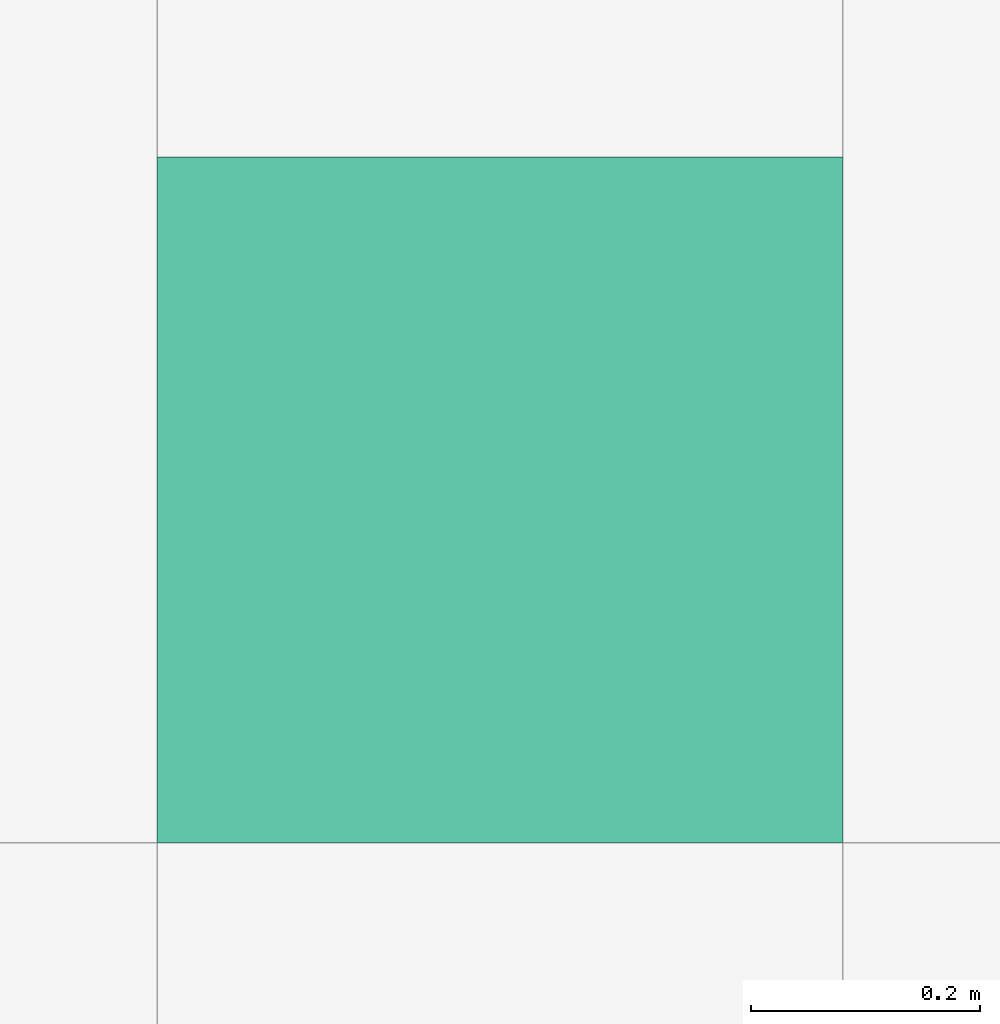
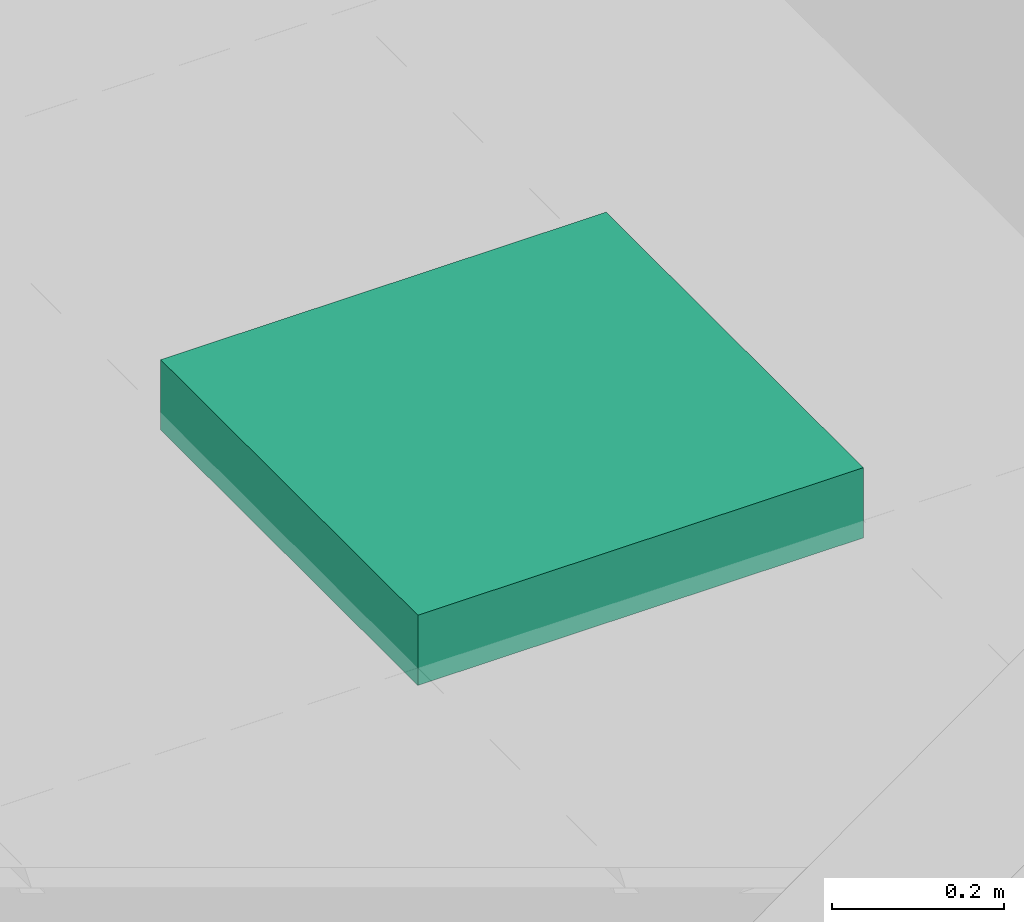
# One storey, part 290 of 347: 1 flow terminal.
"""IFC2X3 building model written with IfcOpenShell, lengths in millimetres."""

from ifc_helpers import new_model, entity, si_unit, converted_unit, derived_unit, money_unit, direction, frame, origin_with_axes, place, context, subcontext, project, spatial, open_shell, faceted_brep, surface_model, source, transform, mapped, type_object, type_shapes, element, save


model = new_model("IFC2X3")

# Units and contexts
model_context = context("Model", 3, precision=0.01, world=origin_with_axes(), true_north=direction((0.0, 1.0)))
plan_context = context("Plan", 3, precision=0.01, world=origin_with_axes(), true_north=direction((0.0, 1.0)))
body_context = subcontext(model_context, "Body", "Model", "MODEL_VIEW")
ifc_project = project(units=[si_unit("LENGTHUNIT", "METRE", prefix="MILLI"), si_unit("AREAUNIT", "SQUARE_METRE"), si_unit("VOLUMEUNIT", "CUBIC_METRE"), converted_unit("PLANEANGLEUNIT", "DEGREE", entity("IfcPlaneAngleMeasure", 0.0174532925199), si_unit("PLANEANGLEUNIT", "RADIAN"), dimensions=[0, 0, 0, 0, 0, 0, 0]), money_unit("EUR"), converted_unit("TIMEUNIT", "Year", entity("IfcTimeMeasure", 31556926.0), si_unit("TIMEUNIT", "SECOND"), dimensions=[0, 0, 1, 0, 0, 0, 0]), si_unit("MASSUNIT", "GRAM", prefix="KILO"), si_unit("THERMODYNAMICTEMPERATUREUNIT", "DEGREE_CELSIUS"), si_unit("LUMINOUSINTENSITYUNIT", "LUMEN"), si_unit("ENERGYUNIT", "JOULE", prefix="MEGA"), derived_unit("THERMALCONDUCTANCEUNIT", [(si_unit("POWERUNIT", "WATT"), 1), (si_unit("LENGTHUNIT", "METRE"), -1), (si_unit("THERMODYNAMICTEMPERATUREUNIT", "KELVIN"), -1)]), derived_unit("SPECIFICHEATCAPACITYUNIT", [(si_unit("ENERGYUNIT", "JOULE"), 1), (si_unit("MASSUNIT", "GRAM", prefix="KILO"), -1), (si_unit("THERMODYNAMICTEMPERATUREUNIT", "KELVIN"), -1)]), derived_unit("MASSDENSITYUNIT", [(si_unit("MASSUNIT", "GRAM", prefix="KILO"), 1), (si_unit("VOLUMEUNIT", "CUBIC_METRE"), -1)])], contexts=[model_context, plan_context])

# Site, building, storey
site_placement = place(None, origin_with_axes())
site = spatial("IfcSite", under=ifc_project, at=site_placement, Name="Site", CompositionType="ELEMENT")
building_placement = place(site_placement, origin_with_axes())
building = spatial("IfcBuilding", under=site, at=building_placement, Name="Naam gebouw", CompositionType="ELEMENT")
storey_placement = place(building_placement, origin_with_axes())
storey = spatial("IfcBuildingStorey", under=building, at=storey_placement, Name="begane grond", CompositionType="ELEMENT", Elevation=0.0)

# Flow terminal
lamp_type = type_object("IfcLampType", Name="TL plafond 25", PredefinedType="NOTDEFINED")
shared_shape = source(origin_with_axes(), body_context, "Body", "SurfaceModel", [
    faceted_brep([(0.0, 0.0, -100.0), (0.0, 0.0, 0.0), (-600.0, 0.0, 0.0), (-600.0, 0.0, -100.0), (0.0, 600.0, -100.0), (0.0, 600.0, 0.0), (-600.0, 600.0, 0.0), (-40.0, 40.0, 0.0), (-560.0, 40.0, 0.0), (-560.0, 560.0, 0.0), (-40.0, 560.0, 0.0), (-600.0, 600.0, -100.0), (-40.0, 40.0, -100.0), (-40.0, 560.0, -100.0), (-560.0, 560.0, -100.0), (-560.0, 40.0, -100.0)], [[[0, 1, 2, 3]], [[4, 5, 1, 0]], [[1, 5, 6, 2], [7, 8, 9, 10]], [[3, 2, 6, 11]], [[0, 3, 11, 4], [12, 13, 14, 15]], [[11, 6, 5, 4]], [[15, 8, 7, 12]], [[14, 9, 8, 15]], [[13, 10, 9, 14]], [[12, 7, 10, 13]]]),
    faceted_brep([(-40.0, 40.0, -16.3333333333), (-40.0, 40.0, 0.0), (-560.0, 40.0, 0.0), (-560.0, 40.0, -16.3333333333), (-40.0, 560.0, -16.3333333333), (-40.0, 560.0, 0.0), (-560.0, 560.0, 0.0), (-560.0, 560.0, -16.3333333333)], [[[0, 1, 2, 3]], [[4, 5, 1, 0]], [[1, 5, 6, 2]], [[3, 2, 6, 7]], [[0, 3, 7, 4]], [[7, 6, 5, 4]]]),
    surface_model("IfcShellBasedSurfaceModel", [(-559.0, 41.0, -100.0), (-559.0, 559.0, -100.0), (-40.0, 559.0, -100.0), (-40.0, 41.0, -100.0)], [open_shell([[[0, 1, 2, 3]]])]),
    faceted_brep([(-40.0, 40.0, -100.0), (-40.0, 40.0, -60.0), (-560.0, 40.0, -60.0), (-560.0, 40.0, -100.0), (-40.0, 560.0, -100.0), (-40.0, 560.0, -60.0), (-560.0, 560.0, -60.0), (-41.0, 41.0, -60.0), (-559.0, 41.0, -60.0), (-559.0, 559.0, -60.0), (-41.0, 559.0, -60.0), (-560.0, 560.0, -100.0), (-41.0, 41.0, -100.0), (-41.0, 559.0, -100.0), (-559.0, 559.0, -100.0), (-559.0, 41.0, -100.0)], [[[0, 1, 2, 3]], [[4, 5, 1, 0]], [[1, 5, 6, 2], [7, 8, 9, 10]], [[3, 2, 6, 11]], [[0, 3, 11, 4], [12, 13, 14, 15]], [[11, 6, 5, 4]], [[15, 8, 7, 12]], [[14, 9, 8, 15]], [[13, 10, 9, 14]], [[12, 7, 10, 13]]]),
    faceted_brep([(-40.0, 144.0, -48.3333333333), (-560.0, 144.0, -48.3333333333), (-560.0, 149.740251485, -47.191526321), (-40.0, 149.740251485, -47.191526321), (-40.0, 138.259748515, -47.191526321), (-560.0, 138.259748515, -47.191526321), (-560.0, 133.393398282, -43.9399350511), (-560.0, 130.141807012, -39.0735848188), (-560.0, 129.0, -33.3333333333), (-560.0, 130.141807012, -27.5930818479), (-560.0, 133.393398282, -22.7267316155), (-560.0, 138.259748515, -19.4751403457), (-560.0, 144.0, -18.3333333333), (-560.0, 149.740251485, -19.4751403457), (-560.0, 154.606601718, -22.7267316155), (-560.0, 157.858192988, -27.5930818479), (-560.0, 159.0, -33.3333333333), (-560.0, 157.858192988, -39.0735848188), (-560.0, 154.606601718, -43.9399350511), (-560.0, 144.0, -46.3333333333), (-560.0, 148.974884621, -45.343767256), (-560.0, 153.192388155, -42.5257214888), (-560.0, 156.010433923, -38.3082179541), (-560.0, 157.0, -33.3333333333), (-560.0, 156.010433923, -28.3584487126), (-560.0, 153.192388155, -24.1409451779), (-560.0, 148.974884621, -21.3228994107), (-560.0, 144.0, -20.3333333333), (-560.0, 139.025115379, -21.3228994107), (-560.0, 134.807611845, -24.1409451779), (-560.0, 131.989566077, -28.3584487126), (-560.0, 131.0, -33.3333333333), (-560.0, 131.989566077, -38.3082179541), (-560.0, 134.807611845, -42.5257214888), (-560.0, 139.025115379, -45.343767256), (-40.0, 154.606601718, -43.9399350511), (-40.0, 157.858192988, -39.0735848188), (-40.0, 159.0, -33.3333333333), (-40.0, 157.858192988, -27.5930818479), (-40.0, 154.606601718, -22.7267316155), (-40.0, 149.740251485, -19.4751403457), (-40.0, 144.0, -18.3333333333), (-40.0, 138.259748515, -19.4751403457), (-40.0, 133.393398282, -22.7267316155), (-40.0, 130.141807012, -27.5930818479), (-40.0, 129.0, -33.3333333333), (-40.0, 130.141807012, -39.0735848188), (-40.0, 133.393398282, -43.9399350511), (-40.0, 144.0, -46.3333333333), (-40.0, 139.025115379, -45.343767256), (-40.0, 134.807611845, -42.5257214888), (-40.0, 131.989566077, -38.3082179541), (-40.0, 131.0, -33.3333333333), (-40.0, 131.989566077, -28.3584487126), (-40.0, 134.807611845, -24.1409451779), (-40.0, 139.025115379, -21.3228994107), (-40.0, 144.0, -20.3333333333), (-40.0, 148.974884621, -21.3228994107), (-40.0, 153.192388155, -24.1409451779), (-40.0, 156.010433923, -28.3584487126), (-40.0, 157.0, -33.3333333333), (-40.0, 156.010433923, -38.3082179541), (-40.0, 153.192388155, -42.5257214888), (-40.0, 148.974884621, -45.343767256)], [[[0, 1, 2, 3]], [[4, 5, 1, 0]], [[1, 5, 6, 7, 8, 9, 10, 11, 12, 13, 14, 15, 16, 17, 18, 2], [19, 20, 21, 22, 23, 24, 25, 26, 27, 28, 29, 30, 31, 32, 33, 34]], [[3, 2, 18, 35]], [[0, 3, 35, 36, 37, 38, 39, 40, 41, 42, 43, 44, 45, 46, 47, 4], [48, 49, 50, 51, 52, 53, 54, 55, 56, 57, 58, 59, 60, 61, 62, 63]], [[47, 6, 5, 4]], [[46, 7, 6, 47]], [[45, 8, 7, 46]], [[44, 9, 8, 45]], [[43, 10, 9, 44]], [[42, 11, 10, 43]], [[41, 12, 11, 42]], [[40, 13, 12, 41]], [[39, 14, 13, 40]], [[38, 15, 14, 39]], [[37, 16, 15, 38]], [[36, 17, 16, 37]], [[35, 18, 17, 36]], [[63, 20, 19, 48]], [[62, 21, 20, 63]], [[61, 22, 21, 62]], [[60, 23, 22, 61]], [[59, 24, 23, 60]], [[58, 25, 24, 59]], [[57, 26, 25, 58]], [[56, 27, 26, 57]], [[55, 28, 27, 56]], [[54, 29, 28, 55]], [[53, 30, 29, 54]], [[52, 31, 30, 53]], [[51, 32, 31, 52]], [[50, 33, 32, 51]], [[49, 34, 33, 50]], [[48, 19, 34, 49]]]),
    faceted_brep([(-40.0, 248.0, -48.3333333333), (-560.0, 248.0, -48.3333333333), (-560.0, 253.740251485, -47.191526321), (-40.0, 253.740251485, -47.191526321), (-40.0, 242.259748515, -47.191526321), (-560.0, 242.259748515, -47.191526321), (-560.0, 237.393398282, -43.9399350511), (-560.0, 234.141807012, -39.0735848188), (-560.0, 233.0, -33.3333333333), (-560.0, 234.141807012, -27.5930818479), (-560.0, 237.393398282, -22.7267316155), (-560.0, 242.259748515, -19.4751403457), (-560.0, 248.0, -18.3333333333), (-560.0, 253.740251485, -19.4751403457), (-560.0, 258.606601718, -22.7267316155), (-560.0, 261.858192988, -27.5930818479), (-560.0, 263.0, -33.3333333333), (-560.0, 261.858192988, -39.0735848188), (-560.0, 258.606601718, -43.9399350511), (-560.0, 248.0, -46.3333333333), (-560.0, 252.974884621, -45.343767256), (-560.0, 257.192388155, -42.5257214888), (-560.0, 260.010433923, -38.3082179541), (-560.0, 261.0, -33.3333333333), (-560.0, 260.010433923, -28.3584487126), (-560.0, 257.192388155, -24.1409451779), (-560.0, 252.974884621, -21.3228994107), (-560.0, 248.0, -20.3333333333), (-560.0, 243.025115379, -21.3228994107), (-560.0, 238.807611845, -24.1409451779), (-560.0, 235.989566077, -28.3584487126), (-560.0, 235.0, -33.3333333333), (-560.0, 235.989566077, -38.3082179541), (-560.0, 238.807611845, -42.5257214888), (-560.0, 243.025115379, -45.343767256), (-40.0, 258.606601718, -43.9399350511), (-40.0, 261.858192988, -39.0735848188), (-40.0, 263.0, -33.3333333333), (-40.0, 261.858192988, -27.5930818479), (-40.0, 258.606601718, -22.7267316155), (-40.0, 253.740251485, -19.4751403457), (-40.0, 248.0, -18.3333333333), (-40.0, 242.259748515, -19.4751403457), (-40.0, 237.393398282, -22.7267316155), (-40.0, 234.141807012, -27.5930818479), (-40.0, 233.0, -33.3333333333), (-40.0, 234.141807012, -39.0735848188), (-40.0, 237.393398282, -43.9399350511), (-40.0, 248.0, -46.3333333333), (-40.0, 243.025115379, -45.343767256), (-40.0, 238.807611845, -42.5257214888), (-40.0, 235.989566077, -38.3082179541), (-40.0, 235.0, -33.3333333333), (-40.0, 235.989566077, -28.3584487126), (-40.0, 238.807611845, -24.1409451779), (-40.0, 243.025115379, -21.3228994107), (-40.0, 248.0, -20.3333333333), (-40.0, 252.974884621, -21.3228994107), (-40.0, 257.192388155, -24.1409451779), (-40.0, 260.010433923, -28.3584487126), (-40.0, 261.0, -33.3333333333), (-40.0, 260.010433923, -38.3082179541), (-40.0, 257.192388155, -42.5257214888), (-40.0, 252.974884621, -45.343767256)], [[[0, 1, 2, 3]], [[4, 5, 1, 0]], [[1, 5, 6, 7, 8, 9, 10, 11, 12, 13, 14, 15, 16, 17, 18, 2], [19, 20, 21, 22, 23, 24, 25, 26, 27, 28, 29, 30, 31, 32, 33, 34]], [[3, 2, 18, 35]], [[0, 3, 35, 36, 37, 38, 39, 40, 41, 42, 43, 44, 45, 46, 47, 4], [48, 49, 50, 51, 52, 53, 54, 55, 56, 57, 58, 59, 60, 61, 62, 63]], [[47, 6, 5, 4]], [[46, 7, 6, 47]], [[45, 8, 7, 46]], [[44, 9, 8, 45]], [[43, 10, 9, 44]], [[42, 11, 10, 43]], [[41, 12, 11, 42]], [[40, 13, 12, 41]], [[39, 14, 13, 40]], [[38, 15, 14, 39]], [[37, 16, 15, 38]], [[36, 17, 16, 37]], [[35, 18, 17, 36]], [[63, 20, 19, 48]], [[62, 21, 20, 63]], [[61, 22, 21, 62]], [[60, 23, 22, 61]], [[59, 24, 23, 60]], [[58, 25, 24, 59]], [[57, 26, 25, 58]], [[56, 27, 26, 57]], [[55, 28, 27, 56]], [[54, 29, 28, 55]], [[53, 30, 29, 54]], [[52, 31, 30, 53]], [[51, 32, 31, 52]], [[50, 33, 32, 51]], [[49, 34, 33, 50]], [[48, 19, 34, 49]]]),
    faceted_brep([(-40.0, 352.0, -48.3333333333), (-560.0, 352.0, -48.3333333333), (-560.0, 357.740251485, -47.191526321), (-40.0, 357.740251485, -47.191526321), (-40.0, 346.259748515, -47.191526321), (-560.0, 346.259748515, -47.191526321), (-560.0, 341.393398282, -43.9399350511), (-560.0, 338.141807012, -39.0735848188), (-560.0, 337.0, -33.3333333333), (-560.0, 338.141807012, -27.5930818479), (-560.0, 341.393398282, -22.7267316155), (-560.0, 346.259748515, -19.4751403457), (-560.0, 352.0, -18.3333333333), (-560.0, 357.740251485, -19.4751403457), (-560.0, 362.606601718, -22.7267316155), (-560.0, 365.858192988, -27.5930818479), (-560.0, 367.0, -33.3333333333), (-560.0, 365.858192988, -39.0735848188), (-560.0, 362.606601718, -43.9399350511), (-560.0, 352.0, -46.3333333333), (-560.0, 356.974884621, -45.343767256), (-560.0, 361.192388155, -42.5257214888), (-560.0, 364.010433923, -38.3082179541), (-560.0, 365.0, -33.3333333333), (-560.0, 364.010433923, -28.3584487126), (-560.0, 361.192388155, -24.1409451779), (-560.0, 356.974884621, -21.3228994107), (-560.0, 352.0, -20.3333333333), (-560.0, 347.025115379, -21.3228994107), (-560.0, 342.807611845, -24.1409451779), (-560.0, 339.989566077, -28.3584487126), (-560.0, 339.0, -33.3333333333), (-560.0, 339.989566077, -38.3082179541), (-560.0, 342.807611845, -42.5257214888), (-560.0, 347.025115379, -45.343767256), (-40.0, 362.606601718, -43.9399350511), (-40.0, 365.858192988, -39.0735848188), (-40.0, 367.0, -33.3333333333), (-40.0, 365.858192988, -27.5930818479), (-40.0, 362.606601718, -22.7267316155), (-40.0, 357.740251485, -19.4751403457), (-40.0, 352.0, -18.3333333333), (-40.0, 346.259748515, -19.4751403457), (-40.0, 341.393398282, -22.7267316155), (-40.0, 338.141807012, -27.5930818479), (-40.0, 337.0, -33.3333333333), (-40.0, 338.141807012, -39.0735848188), (-40.0, 341.393398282, -43.9399350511), (-40.0, 352.0, -46.3333333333), (-40.0, 347.025115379, -45.343767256), (-40.0, 342.807611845, -42.5257214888), (-40.0, 339.989566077, -38.3082179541), (-40.0, 339.0, -33.3333333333), (-40.0, 339.989566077, -28.3584487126), (-40.0, 342.807611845, -24.1409451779), (-40.0, 347.025115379, -21.3228994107), (-40.0, 352.0, -20.3333333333), (-40.0, 356.974884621, -21.3228994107), (-40.0, 361.192388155, -24.1409451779), (-40.0, 364.010433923, -28.3584487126), (-40.0, 365.0, -33.3333333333), (-40.0, 364.010433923, -38.3082179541), (-40.0, 361.192388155, -42.5257214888), (-40.0, 356.974884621, -45.343767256)], [[[0, 1, 2, 3]], [[4, 5, 1, 0]], [[1, 5, 6, 7, 8, 9, 10, 11, 12, 13, 14, 15, 16, 17, 18, 2], [19, 20, 21, 22, 23, 24, 25, 26, 27, 28, 29, 30, 31, 32, 33, 34]], [[3, 2, 18, 35]], [[0, 3, 35, 36, 37, 38, 39, 40, 41, 42, 43, 44, 45, 46, 47, 4], [48, 49, 50, 51, 52, 53, 54, 55, 56, 57, 58, 59, 60, 61, 62, 63]], [[47, 6, 5, 4]], [[46, 7, 6, 47]], [[45, 8, 7, 46]], [[44, 9, 8, 45]], [[43, 10, 9, 44]], [[42, 11, 10, 43]], [[41, 12, 11, 42]], [[40, 13, 12, 41]], [[39, 14, 13, 40]], [[38, 15, 14, 39]], [[37, 16, 15, 38]], [[36, 17, 16, 37]], [[35, 18, 17, 36]], [[63, 20, 19, 48]], [[62, 21, 20, 63]], [[61, 22, 21, 62]], [[60, 23, 22, 61]], [[59, 24, 23, 60]], [[58, 25, 24, 59]], [[57, 26, 25, 58]], [[56, 27, 26, 57]], [[55, 28, 27, 56]], [[54, 29, 28, 55]], [[53, 30, 29, 54]], [[52, 31, 30, 53]], [[51, 32, 31, 52]], [[50, 33, 32, 51]], [[49, 34, 33, 50]], [[48, 19, 34, 49]]]),
    faceted_brep([(-40.0, 456.0, -48.3333333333), (-560.0, 456.0, -48.3333333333), (-560.0, 461.740251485, -47.191526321), (-40.0, 461.740251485, -47.191526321), (-40.0, 450.259748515, -47.191526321), (-560.0, 450.259748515, -47.191526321), (-560.0, 445.393398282, -43.9399350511), (-560.0, 442.141807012, -39.0735848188), (-560.0, 441.0, -33.3333333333), (-560.0, 442.141807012, -27.5930818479), (-560.0, 445.393398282, -22.7267316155), (-560.0, 450.259748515, -19.4751403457), (-560.0, 456.0, -18.3333333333), (-560.0, 461.740251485, -19.4751403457), (-560.0, 466.606601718, -22.7267316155), (-560.0, 469.858192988, -27.5930818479), (-560.0, 471.0, -33.3333333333), (-560.0, 469.858192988, -39.0735848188), (-560.0, 466.606601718, -43.9399350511), (-560.0, 456.0, -46.3333333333), (-560.0, 460.974884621, -45.343767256), (-560.0, 465.192388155, -42.5257214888), (-560.0, 468.010433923, -38.3082179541), (-560.0, 469.0, -33.3333333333), (-560.0, 468.010433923, -28.3584487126), (-560.0, 465.192388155, -24.1409451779), (-560.0, 460.974884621, -21.3228994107), (-560.0, 456.0, -20.3333333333), (-560.0, 451.025115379, -21.3228994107), (-560.0, 446.807611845, -24.1409451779), (-560.0, 443.989566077, -28.3584487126), (-560.0, 443.0, -33.3333333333), (-560.0, 443.989566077, -38.3082179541), (-560.0, 446.807611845, -42.5257214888), (-560.0, 451.025115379, -45.343767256), (-40.0, 466.606601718, -43.9399350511), (-40.0, 469.858192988, -39.0735848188), (-40.0, 471.0, -33.3333333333), (-40.0, 469.858192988, -27.5930818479), (-40.0, 466.606601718, -22.7267316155), (-40.0, 461.740251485, -19.4751403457), (-40.0, 456.0, -18.3333333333), (-40.0, 450.259748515, -19.4751403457), (-40.0, 445.393398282, -22.7267316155), (-40.0, 442.141807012, -27.5930818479), (-40.0, 441.0, -33.3333333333), (-40.0, 442.141807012, -39.0735848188), (-40.0, 445.393398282, -43.9399350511), (-40.0, 456.0, -46.3333333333), (-40.0, 451.025115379, -45.343767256), (-40.0, 446.807611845, -42.5257214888), (-40.0, 443.989566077, -38.3082179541), (-40.0, 443.0, -33.3333333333), (-40.0, 443.989566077, -28.3584487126), (-40.0, 446.807611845, -24.1409451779), (-40.0, 451.025115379, -21.3228994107), (-40.0, 456.0, -20.3333333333), (-40.0, 460.974884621, -21.3228994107), (-40.0, 465.192388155, -24.1409451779), (-40.0, 468.010433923, -28.3584487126), (-40.0, 469.0, -33.3333333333), (-40.0, 468.010433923, -38.3082179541), (-40.0, 465.192388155, -42.5257214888), (-40.0, 460.974884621, -45.343767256)], [[[0, 1, 2, 3]], [[4, 5, 1, 0]], [[1, 5, 6, 7, 8, 9, 10, 11, 12, 13, 14, 15, 16, 17, 18, 2], [19, 20, 21, 22, 23, 24, 25, 26, 27, 28, 29, 30, 31, 32, 33, 34]], [[3, 2, 18, 35]], [[0, 3, 35, 36, 37, 38, 39, 40, 41, 42, 43, 44, 45, 46, 47, 4], [48, 49, 50, 51, 52, 53, 54, 55, 56, 57, 58, 59, 60, 61, 62, 63]], [[47, 6, 5, 4]], [[46, 7, 6, 47]], [[45, 8, 7, 46]], [[44, 9, 8, 45]], [[43, 10, 9, 44]], [[42, 11, 10, 43]], [[41, 12, 11, 42]], [[40, 13, 12, 41]], [[39, 14, 13, 40]], [[38, 15, 14, 39]], [[37, 16, 15, 38]], [[36, 17, 16, 37]], [[35, 18, 17, 36]], [[63, 20, 19, 48]], [[62, 21, 20, 63]], [[61, 22, 21, 62]], [[60, 23, 22, 61]], [[59, 24, 23, 60]], [[58, 25, 24, 59]], [[57, 26, 25, 58]], [[56, 27, 26, 57]], [[55, 28, 27, 56]], [[54, 29, 28, 55]], [[53, 30, 29, 54]], [[52, 31, 30, 53]], [[51, 32, 31, 52]], [[50, 33, 32, 51]], [[49, 34, 33, 50]], [[48, 19, 34, 49]]]),
])
type_shapes(lamp_type, [shared_shape])
flow_terminal_placement = place(storey_placement, frame((47500.0, 41790.5, 3295.0), z_axis=(0.0, 0.0, 1.0), x_axis=(1.0, 0.0, 0.0)))
element("IfcFlowTerminal", 1, at=flow_terminal_placement, inside=storey, type_object=lamp_type, Name="63_Lamp-x", ObjectType="Lamp", context=body_context, shape_type="MappedRepresentation", body=[
    mapped(shared_shape, transform((0.0, 0.0, 0.0))),
])

save(model, "model.ifc")
